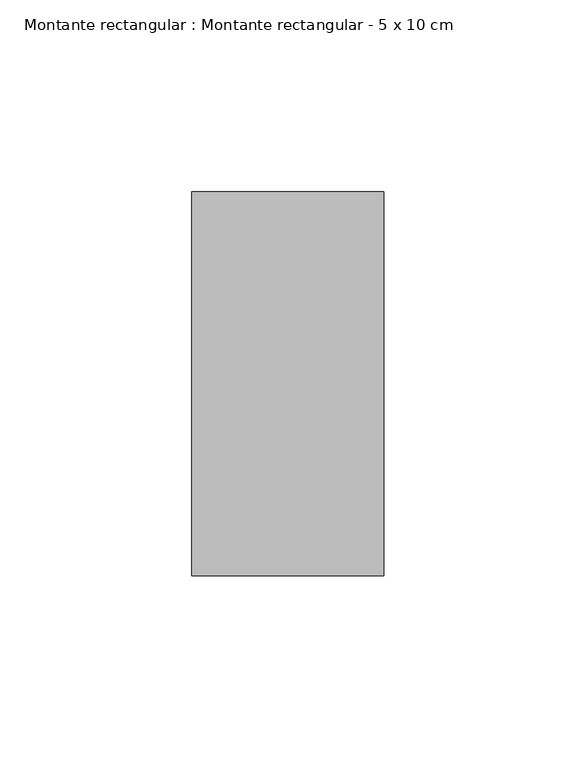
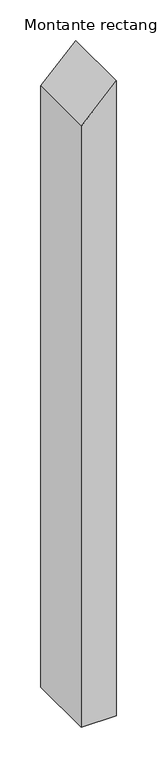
"""IFC4 building model written with IfcOpenShell, lengths in millimetres: member geometry, Montante rectangular : Montante rectangular - 5 x 10 cm."""

import ifcopenshell
import ifcopenshell.guid

model = None  # the IFC model being written
_history = None  # IfcOwnerHistory: only IFC2X3 demands one
_inside = {}  # id of a spatial element -> (the spatial element, [elements in it])
_under = {}  # id of a project, library or spatial element -> (it, [spatial elements below it])
_declared = {}  # id of a project -> (the project, [libraries it declares])
_typed = {}  # id of a type object -> (the type object, [elements of that type])
_made_of = {}  # id of a material, layer set ... -> (it, [elements and type objects made of it])


def new_model(schema):
    """Start an empty IFC model of exactly this schema.

    Asked for "IFC4X3", IfcOpenShell would pick the latest addendum, in which some entities
    have other attributes; the version numbers below select the first issue.
    IFC2X3 requires an IfcOwnerHistory on every rooted entity: one is made here for all.
    """
    global model, _history
    if schema == "IFC4X3":
        model = ifcopenshell.file(schema_version=(4, 3, 0, 0))
    else:
        model = ifcopenshell.file(schema=schema)
    _inside.clear()
    _under.clear()
    _declared.clear()
    _typed.clear()
    _made_of.clear()
    _history = None
    if model.schema == "IFC2X3":
        org = make("IfcOrganization", Name="unknown")
        user = make(
            "IfcPersonAndOrganization",
            ThePerson=make("IfcPerson", FamilyName="unknown"),
            TheOrganization=org,
        )
        app = make(
            "IfcApplication",
            ApplicationDeveloper=org,
            Version="unknown",
            ApplicationFullName="unknown",
            ApplicationIdentifier="unknown",
        )
        _history = make(
            "IfcOwnerHistory",
            OwningUser=user,
            OwningApplication=app,
            ChangeAction="ADDED",
            CreationDate=0,
        )
    return model


def make(cls, **values):
    """One entity of the class cls with the attributes given. An attribute that is None is left unset."""
    return model.create_entity(
        cls, **{name: value for name, value in values.items() if value is not None}
    )


def rooted(cls, **values):
    """An entity with a GlobalId (a new one), such as an element, a storey or a relation."""
    return make(cls, GlobalId=ifcopenshell.guid.new(), OwnerHistory=_history, **values)


def si_unit(unit_type, name, prefix=None):
    """IfcSIUnit, for example si_unit("LENGTHUNIT", "METRE", prefix="MILLI")."""
    return make("IfcSIUnit", UnitType=unit_type, Prefix=prefix, Name=name)


def assignment(units):
    """IfcUnitAssignment: the units of a project."""
    return None if units is None else make("IfcUnitAssignment", Units=units)


def point(xyz):
    """IfcCartesianPoint."""
    return None if xyz is None else make("IfcCartesianPoint", Coordinates=xyz)


def direction(xyz):
    """IfcDirection."""
    return None if xyz is None else make("IfcDirection", DirectionRatios=xyz)


def frame(location, z_axis=None, x_axis=None):
    """IfcAxis2Placement3D, a coordinate frame: its origin and axes. An axis left out is left unset."""
    return make(
        "IfcAxis2Placement3D",
        Location=point(location),
        Axis=direction(z_axis),
        RefDirection=direction(x_axis),
    )


def origin():
    """The frame at (0, 0, 0) with its axes left unset."""
    return frame((0.0, 0.0, 0.0))


def place(relative_to, where):
    """IfcLocalPlacement: puts the frame where relative to a parent placement (None: the world)."""
    return make(
        "IfcLocalPlacement", PlacementRelTo=relative_to, RelativePlacement=where
    )


def context(
    kind, dimensions, precision=None, world=None, true_north=None, identifier=None
):
    """IfcGeometricRepresentationContext, for example the 3D "Model" context."""
    return make(
        "IfcGeometricRepresentationContext",
        ContextIdentifier=identifier,
        ContextType=kind,
        CoordinateSpaceDimension=dimensions,
        Precision=precision,
        WorldCoordinateSystem=world,
        TrueNorth=true_north,
    )


def project(units=None, contexts=None):
    """IfcProject with its units and contexts."""
    return rooted(
        "IfcProject",
        Name="project",
        RepresentationContexts=contexts,
        UnitsInContext=assignment(units),
    )


def spatial(cls, under=None, at=None, **own):
    """A site, building, storey or space (cls), placed at a placement, below another one or the project."""
    s = rooted(cls, ObjectPlacement=at, **own)
    if under is not None:
        _under.setdefault(under.id(), (under, []))[1].append(s)
    return s


def polyline(points):
    """IfcPolyline through the points."""
    return make("IfcPolyline", Points=[point(p) for p in points])


def outline(outer, holes=None, kind="AREA"):
    """IfcArbitraryClosedProfileDef: a profile drawn as a closed curve; with holes, ...WithVoids."""
    if holes is None:
        return make("IfcArbitraryClosedProfileDef", ProfileType=kind, OuterCurve=outer)
    return make(
        "IfcArbitraryProfileDefWithVoids",
        ProfileType=kind,
        OuterCurve=outer,
        InnerCurves=holes,
    )


def extrude(swept, where, along, depth):
    """IfcExtrudedAreaSolid: the profile swept, set in the frame where, extruded along a direction by depth."""
    return make(
        "IfcExtrudedAreaSolid",
        SweptArea=swept,
        Position=where,
        ExtrudedDirection=direction(along),
        Depth=depth,
    )


def shape(context_of_items, identifier, shape_type, items):
    """IfcShapeRepresentation: the items that make up one representation, for example the "Body"."""
    return make(
        "IfcShapeRepresentation",
        ContextOfItems=context_of_items,
        RepresentationIdentifier=identifier,
        RepresentationType=shape_type,
        Items=items,
    )


def source(mapping_origin, context_of_items, identifier, shape_type, items):
    """IfcRepresentationMap: a shape defined once, which mapped items show again and again."""
    return make(
        "IfcRepresentationMap",
        MappingOrigin=mapping_origin,
        MappedRepresentation=shape(context_of_items, identifier, shape_type, items),
    )


def transform(
    local_origin,
    x_axis=None,
    y_axis=None,
    z_axis=None,
    scale=None,
    scale2=None,
    scale3=None,
    uniform=True,
):
    """IfcCartesianTransformationOperator3D, or its non-uniform kind. x_axis, y_axis, z_axis: its Axis1, 2, 3."""
    if uniform:
        return make(
            "IfcCartesianTransformationOperator3D",
            Axis1=direction(x_axis),
            Axis2=direction(y_axis),
            LocalOrigin=point(local_origin),
            Scale=scale,
            Axis3=direction(z_axis),
        )
    return make(
        "IfcCartesianTransformationOperator3DnonUniform",
        Axis1=direction(x_axis),
        Axis2=direction(y_axis),
        LocalOrigin=point(local_origin),
        Scale=scale,
        Axis3=direction(z_axis),
        Scale2=scale2,
        Scale3=scale3,
    )


def mapped(mapping_source, mapping_target):
    """IfcMappedItem: shows the shape of a source again, moved by a transform."""
    return make(
        "IfcMappedItem", MappingSource=mapping_source, MappingTarget=mapping_target
    )


def made_of(thing, what):
    """Note that an element or type object is made of a material, layer set ...; save() writes the relation."""
    if what is not None:
        _made_of.setdefault(what.id(), (what, []))[1].append(thing)
    return thing


def element(
    cls,
    number,
    at=None,
    inside=None,
    cuts=None,
    type_object=None,
    material=None,
    context=None,
    identifier="Body",
    shape_type=None,
    held_by="IfcProductDefinitionShape",
    body=None,
    shapes=None,
    **own,
):
    """One element of the class cls, such as IfcWall. Its Tag is "e" and its number.

    at: its placement. inside: the storey or other place that contains it. cuts: it is an
    opening in that element (IfcRelVoidsElement). A single representation is given by context,
    identifier, shape_type and body (its items); several are given by shapes. held_by: the class
    of the entity that holds the representations. save() writes the other relations.
    """
    e = rooted(cls, Tag="e%d" % number, ObjectPlacement=at, **own)
    if body is not None:
        shapes = [shape(context, identifier, shape_type, body)]
    if shapes is not None:
        e.Representation = make(held_by, Representations=shapes)
    if inside is not None:
        _inside.setdefault(inside.id(), (inside, []))[1].append(e)
    if cuts is not None:
        rooted(
            "IfcRelVoidsElement", RelatingBuildingElement=cuts, RelatedOpeningElement=e
        )
    if type_object is not None:
        _typed.setdefault(type_object.id(), (type_object, []))[1].append(e)
    return made_of(e, material)


def aggregate(whole, parts):
    """IfcRelAggregates: a whole, such as a stair, and the parts it consists of."""
    return rooted("IfcRelAggregates", RelatingObject=whole, RelatedObjects=parts)


def save(model, path):
    """Write the relations noted so far, then the file.

    IfcRelAggregates (storeys below a building ...), IfcRelContainedInSpatialStructure (elements
    in a storey), IfcRelDefinesByType, IfcRelAssociatesMaterial and IfcRelDeclares: one each for
    every whole, place, type object, material and project.
    """
    for whole, parts in _under.values():
        aggregate(whole, parts)
    for where, things in _inside.values():
        rooted(
            "IfcRelContainedInSpatialStructure",
            RelatedElements=things,
            RelatingStructure=where,
        )
    for kind, things in _typed.values():
        rooted("IfcRelDefinesByType", RelatedObjects=things, RelatingType=kind)
    for what, things in _made_of.values():
        rooted("IfcRelAssociatesMaterial", RelatedObjects=things, RelatingMaterial=what)
    for by, libraries in _declared.values():
        rooted("IfcRelDeclares", RelatingContext=by, RelatedDefinitions=libraries)
    model.write(path)


def montante_rectangular_montante_rectangular_5_x_10_cm_d854e995(model_context):
    return source(origin(), model_context, "Body", "SweptSolid", [
        extrude(outline(polyline([(0.0, 0.0), (-50.6913228, -50.0), (-955.0900392, -50.0), (-955.0900392, 0.0), (0.0, 0.0)])), frame((0.0, -50.0, 0.0), z_axis=(0.0, 1.0, 0.0), x_axis=(0.0, 0.0, 1.0)), (0.0, 0.0, 1.0), 100.0),
    ])


if __name__ == "__main__":
    model = new_model("IFC4")
    model_context = context("Model", 3, world=origin())
    ifc_project = project(units=[si_unit("LENGTHUNIT", "METRE", prefix="MILLI")], contexts=[model_context])
    site = spatial("IfcSite", under=ifc_project)
    building = spatial("IfcBuilding", under=site)
    placement = place(None, origin())
    montante_rectangular_montante_rectangular_5_x_10_cm_shape = montante_rectangular_montante_rectangular_5_x_10_cm_d854e995(model_context)
    element("IfcMember", 1, ObjectType="Montante rectangular : Montante rectangular - 5 x 10 cm", at=placement, inside=building, context=model_context, shape_type="MappedRepresentation", body=[
        mapped(montante_rectangular_montante_rectangular_5_x_10_cm_shape, transform((0.0, 0.0, 0.0), x_axis=(1.0, 0.0, 0.0), y_axis=(0.0, 1.0, 0.0), z_axis=(0.0, 0.0, 1.0))),
    ])
    save(model, "model.ifc")
